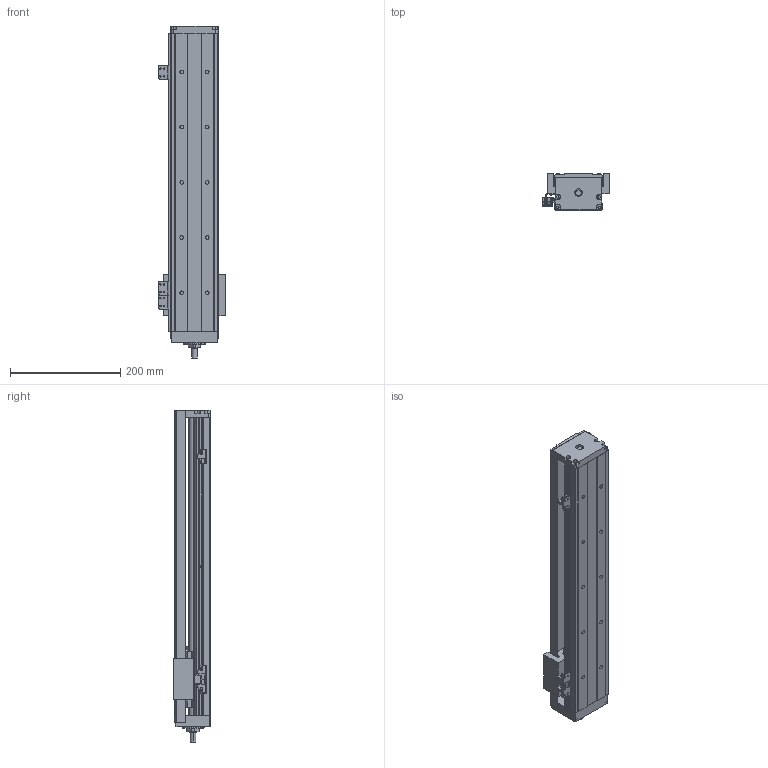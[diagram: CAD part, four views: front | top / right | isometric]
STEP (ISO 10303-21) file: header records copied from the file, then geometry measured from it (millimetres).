
FILE_DESCRIPTION (( 'STEP AP203' ), '1' );
FILE_NAME ('KH86D10C-540A1-H0CS2.STEP', '2022-06-13T05:39:14', ( '' ), ( '' ), 'SwSTEP 2.0', 'SolidWorks 2016', '' );
FILE_SCHEMA (( 'CONFIG_CONTROL_DESIGN' ));
Length unit declared in the file: millimetre
Products named in the file (45): 86賑輸; 囀鞠褒す埴芛蹟隊M3℅4; 囀鞠褒す埴芛蹟隊M4℅10; KH86-01-XXX; PM-Y65_1; KH86-綴釱; 囀鞠褒す埴芛蹟隊M3℅5; KK86-蛌諉釱; KH86-H0; KH86-A1; KK60-08-01; KK86-06-02（M12X1.0）; 鞠褒蹟譫M3; KH86-綴釱_KK86-05-01; KH86-憤癹寢耋; KH86-04-05-02; KH86D10C-540A1-H0CS2
Assembly tree (30 placements, depth 3):
  86賑輸
  囀鞠褒す埴芛蹟隊M3℅4
  囀鞠褒す埴芛蹟隊M3℅4
  囀鞠褒す埴芛蹟隊M4℅10
  PM-Y65_1
Bounding box: 121 x 68 x 601 mm (x, y, z)
Volume: 1611751.7 mm3; surface area: 439680 mm2
Topology: 31 solids, 31 shells, 1556 faces, 3916 edges, 2464 vertices
Faces by surface type: plane 791, cylinder 385, cone 270, bspline 62, torus 24, sphere 24
Entity records: 37252 total; most frequent: CARTESIAN_POINT 9404, ORIENTED_EDGE 4938, DIRECTION 4772, EDGE_CURVE 2469, AXIS2_PLACEMENT_3D 1627, VERTEX_POINT 1607, VECTOR 1518, LINE 1518
